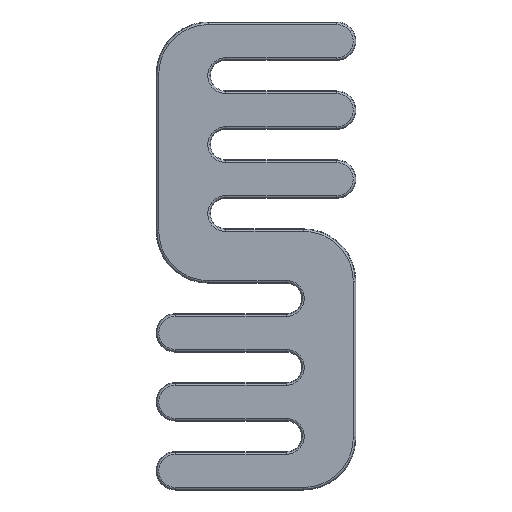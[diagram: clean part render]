
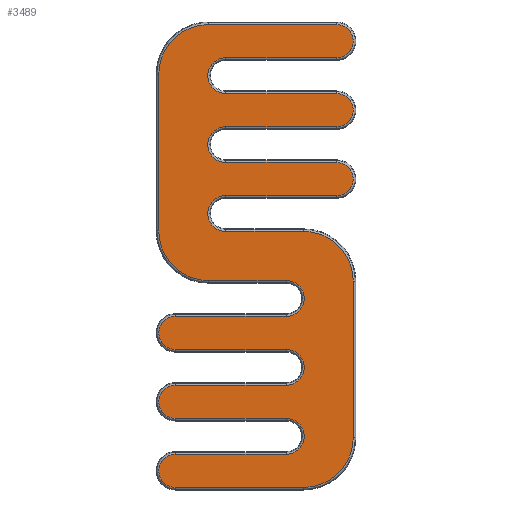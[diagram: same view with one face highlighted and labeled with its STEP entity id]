
A CAD part, top view. The second image highlights one B-rep face of the part: STEP entity #3489.
In plain terms, the highlighted planar face has unit normal (0, 0, 1).
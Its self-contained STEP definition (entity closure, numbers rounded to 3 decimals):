
#584=CARTESIAN_POINT('',(-121.6,464.6,7.));
#585=DIRECTION('',(0.,0.,1.));
#586=DIRECTION('',(0.,1.,0.));
#587=AXIS2_PLACEMENT_3D('',#584,#585,#586);
#592=DIRECTION('',(-1.,0.,0.));
#593=VECTOR('',#592,327.55);
#594=CARTESIAN_POINT('',(205.95,591.416,7.));
#595=LINE('',#594,#593);
#599=CARTESIAN_POINT('',(205.95,548.95,7.));
#600=DIRECTION('',(0.,0.,1.));
#601=DIRECTION('',(0.,-1.,0.));
#602=AXIS2_PLACEMENT_3D('',#599,#600,#601);
#607=DIRECTION('',(1.,0.,0.));
#608=VECTOR('',#607,283.5);
#609=CARTESIAN_POINT('',(-77.55,506.484,7.));
#610=LINE('',#609,#608);
#614=CARTESIAN_POINT('',(-77.55,460.85,7.));
#615=DIRECTION('',(0.,0.,-1.));
#616=DIRECTION('',(0.,-1.,0.));
#617=AXIS2_PLACEMENT_3D('',#614,#615,#616);
#622=DIRECTION('',(-1.,0.,0.));
#623=VECTOR('',#622,283.5);
#624=CARTESIAN_POINT('',(205.95,415.216,7.));
#625=LINE('',#624,#623);
#629=CARTESIAN_POINT('',(205.95,372.75,7.));
#630=DIRECTION('',(0.,0.,1.));
#631=DIRECTION('',(0.,-1.,0.));
#632=AXIS2_PLACEMENT_3D('',#629,#630,#631);
#637=DIRECTION('',(1.,0.,0.));
#638=VECTOR('',#637,283.5);
#639=CARTESIAN_POINT('',(-77.55,330.284,7.));
#640=LINE('',#639,#638);
#644=CARTESIAN_POINT('',(-77.55,284.65,7.));
#645=DIRECTION('',(0.,0.,-1.));
#646=DIRECTION('',(0.,-1.,0.));
#647=AXIS2_PLACEMENT_3D('',#644,#645,#646);
#652=DIRECTION('',(-1.,0.,0.));
#653=VECTOR('',#652,283.5);
#654=CARTESIAN_POINT('',(205.95,239.016,7.));
#655=LINE('',#654,#653);
#659=CARTESIAN_POINT('',(205.95,196.55,7.));
#660=DIRECTION('',(0.,0.,1.));
#661=DIRECTION('',(0.,-1.,0.));
#662=AXIS2_PLACEMENT_3D('',#659,#660,#661);
#667=DIRECTION('',(1.,0.,0.));
#668=VECTOR('',#667,283.5);
#669=CARTESIAN_POINT('',(-77.55,154.084,7.));
#670=LINE('',#669,#668);
#674=CARTESIAN_POINT('',(-77.55,108.45,7.));
#675=DIRECTION('',(0.,0.,-1.));
#676=DIRECTION('',(0.,-1.,0.));
#677=AXIS2_PLACEMENT_3D('',#674,#675,#676);
#682=DIRECTION('',(-1.,0.,0.));
#683=VECTOR('',#682,199.15);
#684=CARTESIAN_POINT('',(121.6,62.816,7.));
#685=LINE('',#684,#683);
#689=CARTESIAN_POINT('',(121.6,-64.,7.));
#690=DIRECTION('',(0.,0.,1.));
#691=DIRECTION('',(1.,0.,0.));
#692=AXIS2_PLACEMENT_3D('',#689,#690,#691);
#697=DIRECTION('',(0.,1.,0.));
#698=VECTOR('',#697,400.6);
#699=CARTESIAN_POINT('',(248.416,-464.6,7.));
#700=LINE('',#699,#698);
#704=CARTESIAN_POINT('',(121.6,-464.6,7.));
#705=DIRECTION('',(0.,0.,1.));
#706=DIRECTION('',(0.,-1.,0.));
#707=AXIS2_PLACEMENT_3D('',#704,#705,#706);
#712=DIRECTION('',(1.,0.,0.));
#713=VECTOR('',#712,327.55);
#714=CARTESIAN_POINT('',(-205.95,-591.416,7.));
#715=LINE('',#714,#713);
#719=CARTESIAN_POINT('',(-205.95,-548.95,7.));
#720=DIRECTION('',(0.,0.,1.));
#721=DIRECTION('',(0.,1.,0.));
#722=AXIS2_PLACEMENT_3D('',#719,#720,#721);
#727=DIRECTION('',(-1.,0.,0.));
#728=VECTOR('',#727,283.5);
#729=CARTESIAN_POINT('',(77.55,-506.484,7.));
#730=LINE('',#729,#728);
#734=CARTESIAN_POINT('',(77.55,-460.85,7.));
#735=DIRECTION('',(0.,0.,-1.));
#736=DIRECTION('',(0.,1.,0.));
#737=AXIS2_PLACEMENT_3D('',#734,#735,#736);
#742=DIRECTION('',(1.,0.,0.));
#743=VECTOR('',#742,283.5);
#744=CARTESIAN_POINT('',(-205.95,-415.216,7.));
#745=LINE('',#744,#743);
#749=CARTESIAN_POINT('',(-205.95,-372.75,7.));
#750=DIRECTION('',(0.,0.,1.));
#751=DIRECTION('',(0.,1.,0.));
#752=AXIS2_PLACEMENT_3D('',#749,#750,#751);
#757=DIRECTION('',(-1.,0.,0.));
#758=VECTOR('',#757,283.5);
#759=CARTESIAN_POINT('',(77.55,-330.284,7.));
#760=LINE('',#759,#758);
#764=CARTESIAN_POINT('',(77.55,-284.65,7.));
#765=DIRECTION('',(0.,0.,-1.));
#766=DIRECTION('',(0.,1.,0.));
#767=AXIS2_PLACEMENT_3D('',#764,#765,#766);
#772=DIRECTION('',(1.,0.,0.));
#773=VECTOR('',#772,283.5);
#774=CARTESIAN_POINT('',(-205.95,-239.016,7.));
#775=LINE('',#774,#773);
#779=CARTESIAN_POINT('',(-205.95,-196.55,7.));
#780=DIRECTION('',(0.,0.,1.));
#781=DIRECTION('',(0.,1.,0.));
#782=AXIS2_PLACEMENT_3D('',#779,#780,#781);
#787=DIRECTION('',(-1.,0.,0.));
#788=VECTOR('',#787,283.5);
#789=CARTESIAN_POINT('',(77.55,-154.084,7.));
#790=LINE('',#789,#788);
#794=CARTESIAN_POINT('',(77.55,-108.45,7.));
#795=DIRECTION('',(0.,0.,-1.));
#796=DIRECTION('',(0.,1.,0.));
#797=AXIS2_PLACEMENT_3D('',#794,#795,#796);
#802=DIRECTION('',(1.,0.,0.));
#803=VECTOR('',#802,199.15);
#804=CARTESIAN_POINT('',(-121.6,-62.816,7.));
#805=LINE('',#804,#803);
#809=CARTESIAN_POINT('',(-121.6,64.,7.));
#810=DIRECTION('',(0.,0.,1.));
#811=DIRECTION('',(-1.,0.,0.));
#812=AXIS2_PLACEMENT_3D('',#809,#810,#811);
#817=DIRECTION('',(0.,-1.,0.));
#818=VECTOR('',#817,400.6);
#819=CARTESIAN_POINT('',(-248.416,464.6,7.));
#820=LINE('',#819,#818);
#2921=CARTESIAN_POINT('',(-121.6,591.416,7.));
#2922=CARTESIAN_POINT('',(-248.416,464.6,7.));
#2923=VERTEX_POINT('',#2921);
#2924=VERTEX_POINT('',#2922);
#2929=CARTESIAN_POINT('',(-248.416,64.,7.));
#2930=VERTEX_POINT('',#2929);
#2933=CARTESIAN_POINT('',(-121.6,-62.816,7.));
#2934=VERTEX_POINT('',#2933);
#2937=CARTESIAN_POINT('',(77.55,-62.816,7.));
#2938=VERTEX_POINT('',#2937);
#2941=CARTESIAN_POINT('',(77.55,-154.084,7.));
#2942=VERTEX_POINT('',#2941);
#2945=CARTESIAN_POINT('',(-205.95,-154.084,7.));
#2946=VERTEX_POINT('',#2945);
#2949=CARTESIAN_POINT('',(-205.95,-239.016,7.));
#2950=VERTEX_POINT('',#2949);
#2953=CARTESIAN_POINT('',(77.55,-239.016,7.));
#2954=VERTEX_POINT('',#2953);
#2957=CARTESIAN_POINT('',(77.55,-330.284,7.));
#2958=VERTEX_POINT('',#2957);
#2961=CARTESIAN_POINT('',(-205.95,-330.284,7.));
#2962=VERTEX_POINT('',#2961);
#2965=CARTESIAN_POINT('',(-205.95,-415.216,7.));
#2966=VERTEX_POINT('',#2965);
#2969=CARTESIAN_POINT('',(77.55,-415.216,7.));
#2970=VERTEX_POINT('',#2969);
#2973=CARTESIAN_POINT('',(77.55,-506.484,7.));
#2974=VERTEX_POINT('',#2973);
#2977=CARTESIAN_POINT('',(-205.95,-506.484,7.));
#2978=VERTEX_POINT('',#2977);
#2981=CARTESIAN_POINT('',(-205.95,-591.416,7.));
#2982=VERTEX_POINT('',#2981);
#2985=CARTESIAN_POINT('',(121.6,-591.416,7.));
#2986=VERTEX_POINT('',#2985);
#2989=CARTESIAN_POINT('',(248.416,-464.6,7.));
#2990=VERTEX_POINT('',#2989);
#2993=CARTESIAN_POINT('',(248.416,-64.,7.));
#2994=VERTEX_POINT('',#2993);
#2997=CARTESIAN_POINT('',(121.6,62.816,7.));
#2998=VERTEX_POINT('',#2997);
#3001=CARTESIAN_POINT('',(-77.55,62.816,7.));
#3002=VERTEX_POINT('',#3001);
#3005=CARTESIAN_POINT('',(-77.55,154.084,7.));
#3006=VERTEX_POINT('',#3005);
#3009=CARTESIAN_POINT('',(205.95,154.084,7.));
#3010=VERTEX_POINT('',#3009);
#3013=CARTESIAN_POINT('',(205.95,239.016,7.));
#3014=VERTEX_POINT('',#3013);
#3017=CARTESIAN_POINT('',(-77.55,239.016,7.));
#3018=VERTEX_POINT('',#3017);
#3021=CARTESIAN_POINT('',(-77.55,330.284,7.));
#3022=VERTEX_POINT('',#3021);
#3025=CARTESIAN_POINT('',(205.95,330.284,7.));
#3026=VERTEX_POINT('',#3025);
#3029=CARTESIAN_POINT('',(205.95,415.216,7.));
#3030=VERTEX_POINT('',#3029);
#3033=CARTESIAN_POINT('',(-77.55,415.216,7.));
#3034=VERTEX_POINT('',#3033);
#3037=CARTESIAN_POINT('',(-77.55,506.484,7.));
#3038=VERTEX_POINT('',#3037);
#3041=CARTESIAN_POINT('',(205.95,506.484,7.));
#3042=VERTEX_POINT('',#3041);
#3045=CARTESIAN_POINT('',(205.95,591.416,7.));
#3046=VERTEX_POINT('',#3045);
#3419=CARTESIAN_POINT('',(0.,0.,7.));
#3420=DIRECTION('',(0.,0.,1.));
#3421=DIRECTION('',(1.,0.,0.));
#3422=AXIS2_PLACEMENT_3D('',#3419,#3420,#3421);
#3423=PLANE('',#3422);
#3424=ORIENTED_EDGE('',*,*,#3409,.F.);
#3426=ORIENTED_EDGE('',*,*,#3425,.F.);
#3428=ORIENTED_EDGE('',*,*,#3427,.F.);
#3430=ORIENTED_EDGE('',*,*,#3429,.F.);
#3432=ORIENTED_EDGE('',*,*,#3431,.F.);
#3434=ORIENTED_EDGE('',*,*,#3433,.F.);
#3436=ORIENTED_EDGE('',*,*,#3435,.F.);
#3438=ORIENTED_EDGE('',*,*,#3437,.F.);
#3440=ORIENTED_EDGE('',*,*,#3439,.F.);
#3442=ORIENTED_EDGE('',*,*,#3441,.F.);
#3444=ORIENTED_EDGE('',*,*,#3443,.F.);
#3446=ORIENTED_EDGE('',*,*,#3445,.F.);
#3448=ORIENTED_EDGE('',*,*,#3447,.F.);
#3450=ORIENTED_EDGE('',*,*,#3449,.F.);
#3452=ORIENTED_EDGE('',*,*,#3451,.F.);
#3454=ORIENTED_EDGE('',*,*,#3453,.F.);
#3456=ORIENTED_EDGE('',*,*,#3455,.F.);
#3458=ORIENTED_EDGE('',*,*,#3457,.F.);
#3460=ORIENTED_EDGE('',*,*,#3459,.F.);
#3462=ORIENTED_EDGE('',*,*,#3461,.F.);
#3464=ORIENTED_EDGE('',*,*,#3463,.F.);
#3466=ORIENTED_EDGE('',*,*,#3465,.F.);
#3468=ORIENTED_EDGE('',*,*,#3467,.F.);
#3470=ORIENTED_EDGE('',*,*,#3469,.F.);
#3472=ORIENTED_EDGE('',*,*,#3471,.F.);
#3474=ORIENTED_EDGE('',*,*,#3473,.F.);
#3476=ORIENTED_EDGE('',*,*,#3475,.F.);
#3478=ORIENTED_EDGE('',*,*,#3477,.F.);
#3480=ORIENTED_EDGE('',*,*,#3479,.F.);
#3482=ORIENTED_EDGE('',*,*,#3481,.F.);
#3484=ORIENTED_EDGE('',*,*,#3483,.F.);
#3486=ORIENTED_EDGE('',*,*,#3485,.F.);
#3487=EDGE_LOOP('',(#3424,#3426,#3428,#3430,#3432,#3434,#3436,#3438,#3440,#3442,
#3444,#3446,#3448,#3450,#3452,#3454,#3456,#3458,#3460,#3462,#3464,#3466,#3468,
#3470,#3472,#3474,#3476,#3478,#3480,#3482,#3484,#3486));
#3488=FACE_OUTER_BOUND('',#3487,.F.);
#588=CIRCLE('',#587,126.816);
#603=CIRCLE('',#602,42.466);
#618=CIRCLE('',#617,45.634);
#633=CIRCLE('',#632,42.466);
#648=CIRCLE('',#647,45.634);
#663=CIRCLE('',#662,42.466);
#678=CIRCLE('',#677,45.634);
#693=CIRCLE('',#692,126.816);
#708=CIRCLE('',#707,126.816);
#723=CIRCLE('',#722,42.466);
#738=CIRCLE('',#737,45.634);
#753=CIRCLE('',#752,42.466);
#768=CIRCLE('',#767,45.634);
#783=CIRCLE('',#782,42.466);
#798=CIRCLE('',#797,45.634);
#813=CIRCLE('',#812,126.816);
#3409=EDGE_CURVE('',#2923,#2924,#588,.T.);
#3425=EDGE_CURVE('',#3046,#2923,#595,.T.);
#3427=EDGE_CURVE('',#3042,#3046,#603,.T.);
#3429=EDGE_CURVE('',#3038,#3042,#610,.T.);
#3431=EDGE_CURVE('',#3034,#3038,#618,.T.);
#3433=EDGE_CURVE('',#3030,#3034,#625,.T.);
#3435=EDGE_CURVE('',#3026,#3030,#633,.T.);
#3437=EDGE_CURVE('',#3022,#3026,#640,.T.);
#3439=EDGE_CURVE('',#3018,#3022,#648,.T.);
#3441=EDGE_CURVE('',#3014,#3018,#655,.T.);
#3443=EDGE_CURVE('',#3010,#3014,#663,.T.);
#3445=EDGE_CURVE('',#3006,#3010,#670,.T.);
#3447=EDGE_CURVE('',#3002,#3006,#678,.T.);
#3449=EDGE_CURVE('',#2998,#3002,#685,.T.);
#3451=EDGE_CURVE('',#2994,#2998,#693,.T.);
#3453=EDGE_CURVE('',#2990,#2994,#700,.T.);
#3455=EDGE_CURVE('',#2986,#2990,#708,.T.);
#3457=EDGE_CURVE('',#2982,#2986,#715,.T.);
#3459=EDGE_CURVE('',#2978,#2982,#723,.T.);
#3461=EDGE_CURVE('',#2974,#2978,#730,.T.);
#3463=EDGE_CURVE('',#2970,#2974,#738,.T.);
#3465=EDGE_CURVE('',#2966,#2970,#745,.T.);
#3467=EDGE_CURVE('',#2962,#2966,#753,.T.);
#3469=EDGE_CURVE('',#2958,#2962,#760,.T.);
#3471=EDGE_CURVE('',#2954,#2958,#768,.T.);
#3473=EDGE_CURVE('',#2950,#2954,#775,.T.);
#3475=EDGE_CURVE('',#2946,#2950,#783,.T.);
#3477=EDGE_CURVE('',#2942,#2946,#790,.T.);
#3479=EDGE_CURVE('',#2938,#2942,#798,.T.);
#3481=EDGE_CURVE('',#2934,#2938,#805,.T.);
#3483=EDGE_CURVE('',#2930,#2934,#813,.T.);
#3485=EDGE_CURVE('',#2924,#2930,#820,.T.);
#3489=ADVANCED_FACE('',(#3488),#3423,.T.);
